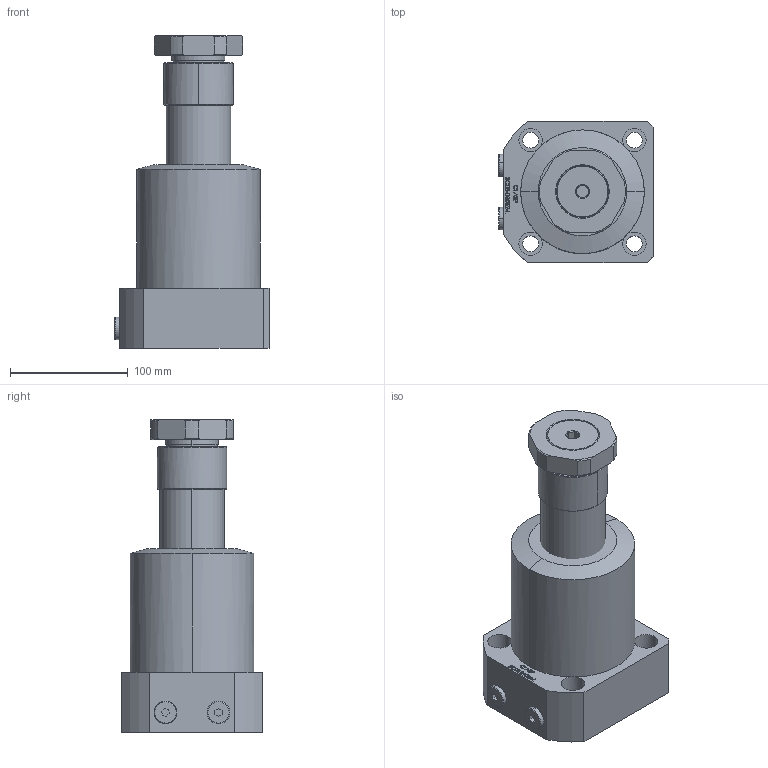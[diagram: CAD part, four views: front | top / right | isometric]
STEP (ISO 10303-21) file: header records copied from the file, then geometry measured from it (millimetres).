
FILE_DESCRIPTION (( 'STEP AP203' ), '1' );
FILE_NAME ('SC08-01052-L.STEP', '2022-07-08T17:25:22', ( '' ), ( '' ), 'SwSTEP 2.0', 'SolidWorks 2017', '' );
FILE_SCHEMA (( 'CONFIG_CONTROL_DESIGN' ));
Length unit declared in the file: millimetre
Products named in the file (6): SC08-01052-L; SC08-01052-L BODY; SC08-01052-Piston; SC08-01052-05 plug; SC08-01052-04 sleeve; SC08-01052-03-nut
Assembly tree (6 placements, depth 2):
  SC08-01052-L
    SC08-01052-L BODY
    SC08-01052-Piston
    SC08-01052-05 plug  x2
    SC08-01052-04 sleeve
    SC08-01052-03-nut
Bounding box: 131 x 120 x 265.6 mm (x, y, z)
Volume: 1935047.3 mm3; surface area: 150405.3 mm2
Topology: 6 solids, 6 shells, 379 faces, 948 edges, 619 vertices
Faces by surface type: plane 162, bspline 112, cylinder 62, cone 41, sphere 2
Entity records: 18296 total; most frequent: CARTESIAN_POINT 9572, ORIENTED_EDGE 1832, DIRECTION 1348, EDGE_CURVE 916, VERTEX_POINT 599, VECTOR 466, LINE 466, AXIS2_PLACEMENT_3D 441
